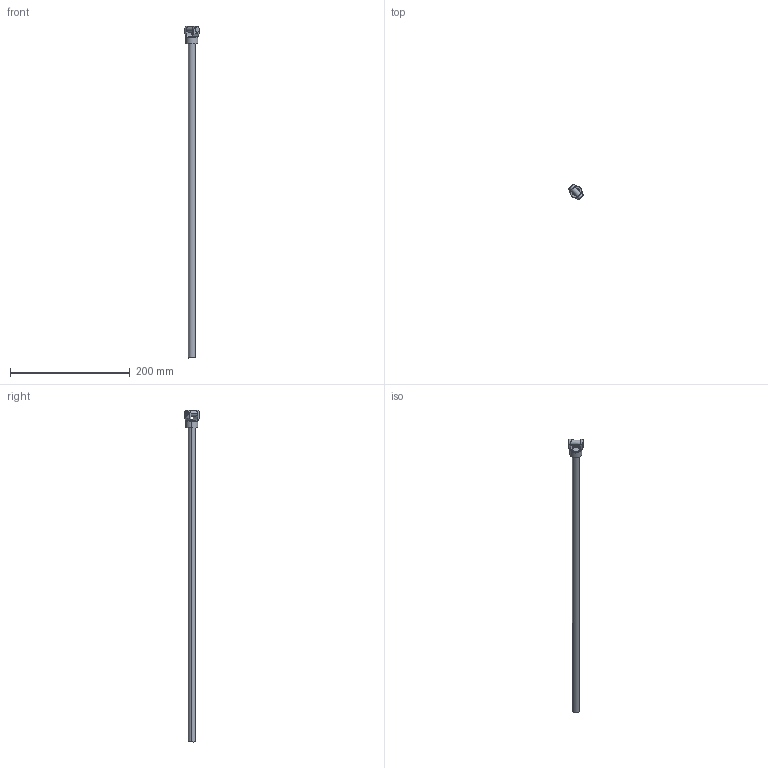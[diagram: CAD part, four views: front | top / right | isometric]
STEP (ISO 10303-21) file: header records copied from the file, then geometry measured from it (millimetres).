
FILE_DESCRIPTION (( 'STEP AP214' ), '1' );
FILE_NAME ('IRB360_8-1130-STD-4D_rev03_RevoluteLinkUpper_CAD.step', '2025-01-14T07:06:25', ( '' ), ( '' ), 'SwSTEP 2.0', 'SolidWorks 2022', '' );
FILE_SCHEMA (( 'AUTOMOTIVE_DESIGN' ));
Length unit declared in the file: millimetre
Products named in the file (1): IRB360_8-1130-STD-4D_rev03_RevoluteLinkUpper_CAD
Bounding box: 23.91 x 24.98 x 554.8 mm (x, y, z)
Volume: 62167.4 mm3; surface area: 23286.8 mm2
Topology: 3 solids, 3 shells, 50 faces, 127 edges, 83 vertices
Faces by surface type: cylinder 29, plane 14, cone 5, bspline 2
Entity records: 1936 total; most frequent: CARTESIAN_POINT 726, ORIENTED_EDGE 254, DIRECTION 222, EDGE_CURVE 127, AXIS2_PLACEMENT_3D 91, VERTEX_POINT 83, EDGE_LOOP 56, FACE_OUTER_BOUND 50
